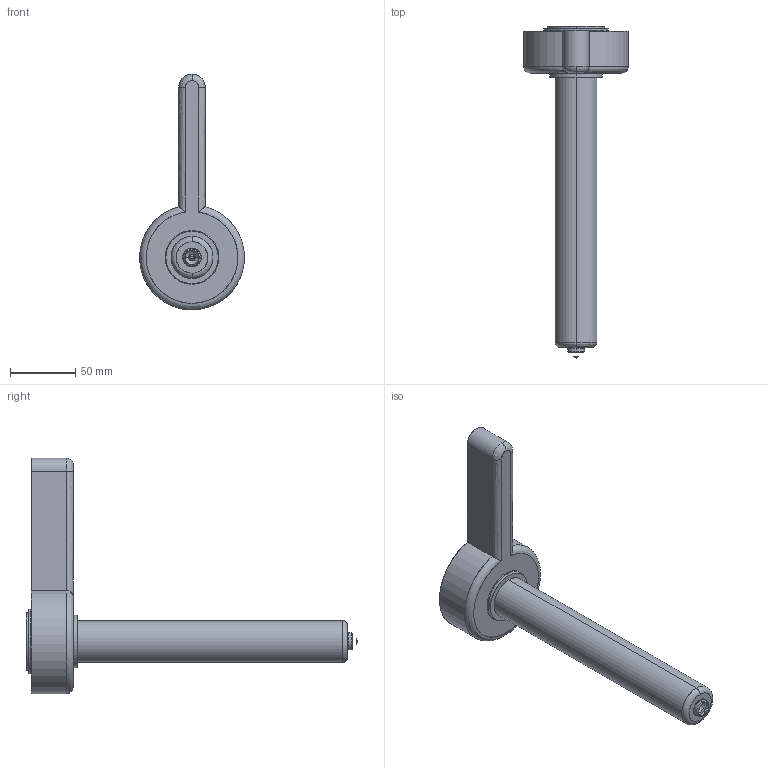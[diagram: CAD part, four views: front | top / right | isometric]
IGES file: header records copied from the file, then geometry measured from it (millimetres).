
Start section: SolidWorks IGES file using analytic representation for surfaces
Global section: file name: C:\Documents and Settings\ws-20\Desktop\TEM\Sede UGEP4505-S-A C-214 L-251 Ød-2.0.IGS; native system: SolidWorks 2012; preprocessor: SolidWorks 2012; author: ws-20; date: 120424.083546; units: millimetre
Bounding box: 79.97 x 253.54 x 180 mm (x, y, z)
Surface area: 48902.8 mm2 (no closed solid volume)
Topology: 0 solids, 0 shells, 44 faces, 952 edges, 952 vertices
Faces by surface type: revolution 27, bspline 17
